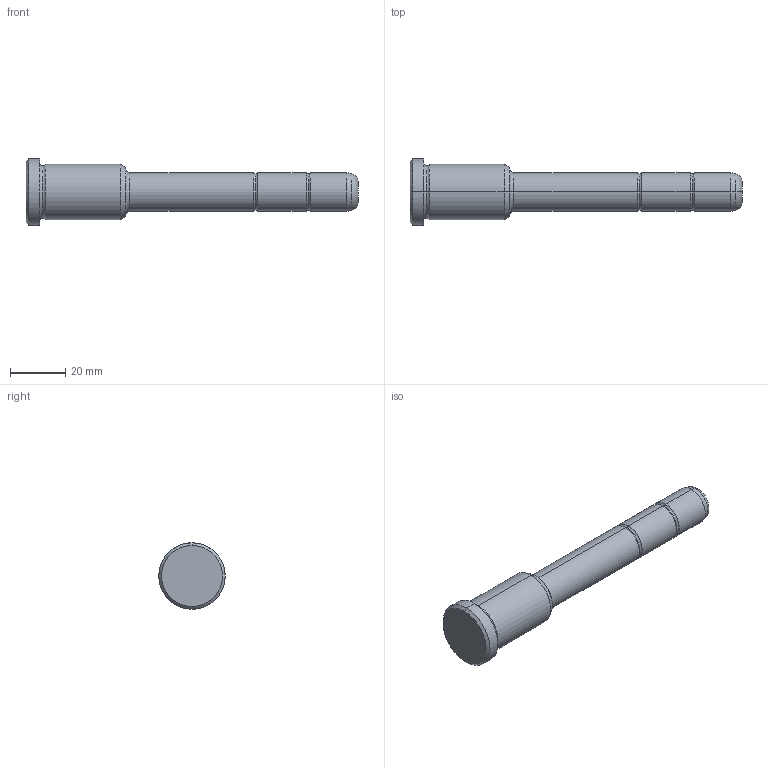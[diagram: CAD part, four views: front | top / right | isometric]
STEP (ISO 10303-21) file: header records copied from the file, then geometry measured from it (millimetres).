
FILE_DESCRIPTION(('CATIA V5 STEP Exchange'),'2;1');
FILE_NAME('C:\Users\Utente\Desktop\IO LAVORO\3D X SITO CF\X SITO\PLASTICA\351\351-14X36X120.stp','2021-08-18T10:44:32+00:00',('none'),('none'),'CATIA Version 5 Release 20 GA (IN-10)','CATIA V5 STEP AP203','none');
FILE_SCHEMA(('CONFIG_CONTROL_DESIGN'));
Length unit declared in the file: millimetre
Products named in the file (1): 351-14X36X120
Bounding box: 120 x 24 x 24 mm (x, y, z)
Volume: 24631.1 mm3; surface area: 6761 mm2
Topology: 1 solids, 1 shells, 36 faces, 102 edges, 70 vertices
Faces by surface type: torus 16, cylinder 10, cone 6, plane 4
Entity records: 1292 total; most frequent: CARTESIAN_POINT 321, ORIENTED_EDGE 204, DIRECTION 166, AXIS2_PLACEMENT_3D 115, EDGE_CURVE 102, CIRCLE 78, VERTEX_POINT 70, EDGE_LOOP 38
